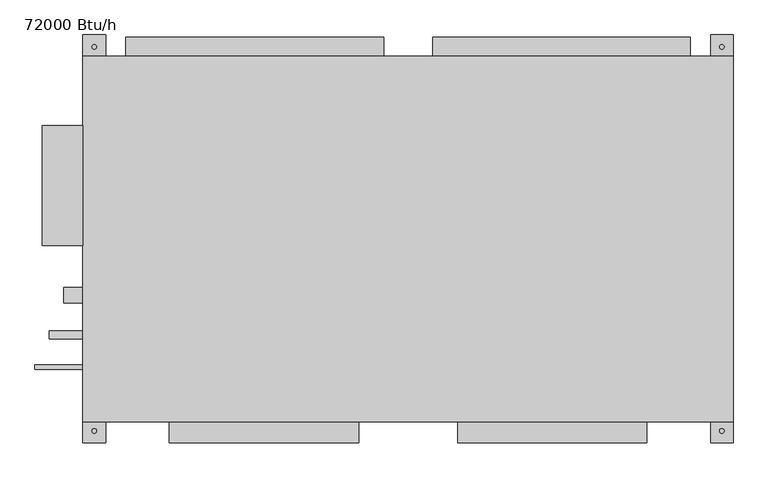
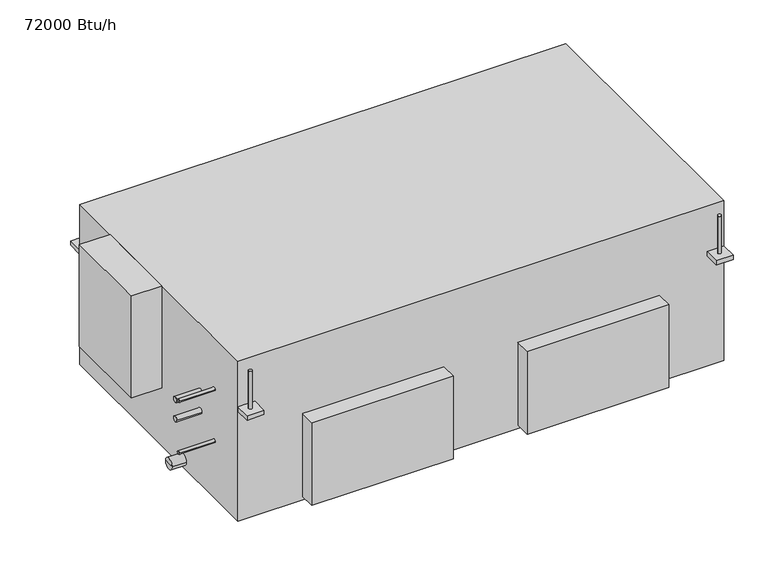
"""IFC4 building model written with IfcOpenShell, lengths in millimetres: proxy geometry, Lennox-VRF-72,96_Btu-High_Static_Ducted-VHIA-2P_Series : 72000 Btu/h."""

from ifc_helpers import new_model, si_unit, point, frame, frame_2d, origin, origin_with_axes, place, context, project, spatial, polyline, circle_curve, trimmed, segment, composite_curve, outline, extrude, source, transform, mapped, element, save
from ifc_brep_helpers import plane_surface, cylinder_surface, advanced_brep


def proxy_72000_btu_h_4e514649(model_context):
    return source(origin(), model_context, "Body", "SolidModel", [
        advanced_brep(
        [(-674.0, -101.125, 23.0), (-674.0, -132.875, 23.0), (-674.0, -117.0, 23.0), (-634.0, -101.125, 23.0), (-634.0, -132.875, 23.0), (-634.0, -117.0, 23.0)],
        [
            (0, 1, circle_curve(frame((-674.0, -117.0, 23.0), z_axis=(-1.0, 0.0, 0.0), x_axis=(0.0, -1.0, 0.0)), 15.875)),
            (1, 2),
            (2, 0),
            (1, 0, circle_curve(frame((-674.0, -117.0, 23.0), z_axis=(-1.0, 0.0, 0.0), x_axis=(0.0, -1.0, 0.0)), 15.875)),
            (3, 4, circle_curve(frame((-634.0, -117.0, 23.0), z_axis=(-1.0, 0.0, 0.0), x_axis=(0.0, -1.0, 0.0)), 15.875)),
            (4, 1),
            (0, 3),
            (4, 3, circle_curve(frame((-634.0, -117.0, 23.0), z_axis=(-1.0, 0.0, 0.0), x_axis=(0.0, -1.0, 0.0)), 15.875)),
            (5, 4),
            (3, 5),
        ],
        [
            plane_surface(frame((-674.0, -117.0, 23.0), z_axis=(-1.0, 0.0, 0.0), x_axis=(0.0, -1.0, 0.0))),
            cylinder_surface(frame((-634.0, -117.0, 23.0), z_axis=(1.0, 0.0, 0.0), x_axis=(0.0, -1.0, 0.0)), 15.875),
            plane_surface(frame((-634.0, -117.0, 23.0), z_axis=(1.0, 0.0, 0.0), x_axis=(0.0, -1.0, 0.0))),
        ],
        [
            (0, [[1, 2, 3]]),
            (0, [[4, -3, -2]]),
            (1, [[5, 6, -1, 7]]),
            (1, [[8, -7, -4, -6]]),
            (2, [[9, -5, 10]]),
            (2, [[-10, -8, -9]]),
        ],
    ),
        extrude(outline(composite_curve([segment(trimmed(circle_curve(frame_2d((-200.0, 216.0)), 7.9375), [point((-207.9375, 216.0))], [point((-192.0625, 216.0))], False, "CARTESIAN"), True, "CONTINUOUS"), segment(trimmed(circle_curve(frame_2d((-200.0, 216.0)), 7.9375), [point((-192.0625, 216.0))], [point((-207.9375, 216.0))], False, "CARTESIAN"), True, "CONTINUOUS")], self_intersect=False)), frame((-704.0, 0.0, 0.0), z_axis=(1.0, 0.0, 0.0), x_axis=(0.0, 1.0, 0.0)), (0.0, 0.0, 1.0), 70.0),
        extrude(outline(composite_curve([segment(trimmed(circle_curve(frame_2d((-267.0, 168.0)), 4.7625), [point((-271.7625, 168.0))], [point((-262.2375, 168.0))], False, "CARTESIAN"), True, "CONTINUOUS"), segment(trimmed(circle_curve(frame_2d((-267.0, 168.0)), 4.7625), [point((-262.2375, 168.0))], [point((-271.7625, 168.0))], False, "CARTESIAN"), True, "CONTINUOUS")], self_intersect=False)), frame((-734.0, 0.0, 0.0), z_axis=(1.0, 0.0, 0.0), x_axis=(0.0, 1.0, 0.0)), (0.0, 0.0, 1.0), 100.0),
        extrude(outline(polyline([(719.0, 425.0), (719.0, 381.0), (672.0, 381.0), (672.0, 425.0), (719.0, 425.0)]), holes=[composite_curve([segment(trimmed(circle_curve(frame_2d((695.5, 400.0)), 4.7625), [point((690.7375, 400.0))], [point((700.2625, 400.0))], True, "CARTESIAN"), True, "CONTINUOUS"), segment(trimmed(circle_curve(frame_2d((695.5, 400.0)), 4.7625), [point((700.2625, 400.0))], [point((690.7375, 400.0))], True, "CARTESIAN"), True, "CONTINUOUS")], self_intersect=False)]), frame((0.0, 0.0, 324.0), z_axis=(0.0, 0.0, 1.0), x_axis=(1.0, 0.0, 0.0)), (0.0, 0.0, 1.0), 13.0),
        extrude(outline(polyline([(-587.0, 425.0), (-587.0, 381.0), (-634.0, 381.0), (-634.0, 425.0), (-587.0, 425.0)]), holes=[composite_curve([segment(trimmed(circle_curve(frame_2d((-610.5, 400.0)), 4.7625), [point((-615.2625, 400.0))], [point((-605.7375, 400.0))], True, "CARTESIAN"), True, "CONTINUOUS"), segment(trimmed(circle_curve(frame_2d((-610.5, 400.0)), 4.7625), [point((-605.7375, 400.0))], [point((-615.2625, 400.0))], True, "CARTESIAN"), True, "CONTINUOUS")], self_intersect=False)]), frame((0.0, 0.0, 324.0), z_axis=(0.0, 0.0, 1.0), x_axis=(1.0, 0.0, 0.0)), (0.0, 0.0, 1.0), 13.0),
        extrude(outline(polyline([(-587.0, -381.0), (-587.0, -425.0), (-634.0, -425.0), (-634.0, -381.0), (-587.0, -381.0)]), holes=[composite_curve([segment(trimmed(circle_curve(frame_2d((-610.5, -400.0)), 4.7625), [point((-615.2625, -400.0))], [point((-605.7375, -400.0))], True, "CARTESIAN"), True, "CONTINUOUS"), segment(trimmed(circle_curve(frame_2d((-610.5, -400.0)), 4.7625), [point((-605.7375, -400.0))], [point((-615.2625, -400.0))], True, "CARTESIAN"), True, "CONTINUOUS")], self_intersect=False)]), frame((0.0, 0.0, 324.0), z_axis=(0.0, 0.0, 1.0), x_axis=(1.0, 0.0, 0.0)), (0.0, 0.0, 1.0), 13.0),
        extrude(outline(polyline([(719.0, -381.0), (719.0, -425.0), (672.0, -425.0), (672.0, -381.0), (719.0, -381.0)]), holes=[composite_curve([segment(trimmed(circle_curve(frame_2d((695.5, -400.0)), 4.7625), [point((690.7375, -400.0))], [point((700.2625, -400.0))], True, "CARTESIAN"), True, "CONTINUOUS"), segment(trimmed(circle_curve(frame_2d((695.5, -400.0)), 4.7625), [point((700.2625, -400.0))], [point((690.7375, -400.0))], True, "CARTESIAN"), True, "CONTINUOUS")], self_intersect=False)]), frame((0.0, 0.0, 324.0), z_axis=(0.0, 0.0, 1.0), x_axis=(1.0, 0.0, 0.0)), (0.0, 0.0, 1.0), 13.0),
        extrude(outline(composite_curve([segment(trimmed(circle_curve(frame_2d((695.5, 400.0)), 4.7625), [point((690.7375, 400.0))], [point((700.2625, 400.0))], False, "CARTESIAN"), True, "CONTINUOUS"), segment(trimmed(circle_curve(frame_2d((695.5, 400.0)), 4.7625), [point((700.2625, 400.0))], [point((690.7375, 400.0))], False, "CARTESIAN"), True, "CONTINUOUS")], self_intersect=False)), frame((0.0, 0.0, 319.0), z_axis=(0.0, 0.0, 1.0), x_axis=(1.0, 0.0, 0.0)), (0.0, 0.0, 1.0), 128.0),
        extrude(outline(composite_curve([segment(trimmed(circle_curve(frame_2d((695.5, -400.0)), 4.7625), [point((690.7375, -400.0))], [point((700.2625, -400.0))], False, "CARTESIAN"), True, "CONTINUOUS"), segment(trimmed(circle_curve(frame_2d((695.5, -400.0)), 4.7625), [point((700.2625, -400.0))], [point((690.7375, -400.0))], False, "CARTESIAN"), True, "CONTINUOUS")], self_intersect=False)), frame((0.0, 0.0, 319.0), z_axis=(0.0, 0.0, 1.0), x_axis=(1.0, 0.0, 0.0)), (0.0, 0.0, 1.0), 128.0),
        extrude(outline(composite_curve([segment(trimmed(circle_curve(frame_2d((-610.5, 400.0)), 4.7625), [point((-615.2625, 400.0))], [point((-605.7375, 400.0))], False, "CARTESIAN"), True, "CONTINUOUS"), segment(trimmed(circle_curve(frame_2d((-610.5, 400.0)), 4.7625), [point((-605.7375, 400.0))], [point((-615.2625, 400.0))], False, "CARTESIAN"), True, "CONTINUOUS")], self_intersect=False)), frame((0.0, 0.0, 319.0), z_axis=(0.0, 0.0, 1.0), x_axis=(1.0, 0.0, 0.0)), (0.0, 0.0, 1.0), 128.0),
        extrude(outline(composite_curve([segment(trimmed(circle_curve(frame_2d((-610.5, -400.0)), 4.7625), [point((-615.2625, -400.0))], [point((-605.7375, -400.0))], False, "CARTESIAN"), True, "CONTINUOUS"), segment(trimmed(circle_curve(frame_2d((-610.5, -400.0)), 4.7625), [point((-605.7375, -400.0))], [point((-615.2625, -400.0))], False, "CARTESIAN"), True, "CONTINUOUS")], self_intersect=False)), frame((0.0, 0.0, 319.0), z_axis=(0.0, 0.0, 1.0), x_axis=(1.0, 0.0, 0.0)), (0.0, 0.0, 1.0), 128.0),
        extrude(outline(polyline([(-634.0, 236.0), (-634.0, -14.0), (-719.0, -14.0), (-719.0, 236.0), (-634.0, 236.0)])), frame((0.0, 0.0, 170.0), z_axis=(0.0, 0.0, 1.0), x_axis=(1.0, 0.0, 0.0)), (0.0, 0.0, 1.0), 300.0),
        extrude(outline(composite_curve([segment(trimmed(circle_curve(frame_2d((-200.0, 273.0)), 7.9375), [point((-207.9375, 273.0))], [point((-192.0625, 273.0))], False, "CARTESIAN"), True, "CONTINUOUS"), segment(trimmed(circle_curve(frame_2d((-200.0, 273.0)), 7.9375), [point((-192.0625, 273.0))], [point((-207.9375, 273.0))], False, "CARTESIAN"), True, "CONTINUOUS")], self_intersect=False)), frame((-704.0, 0.0, 0.0), z_axis=(1.0, 0.0, 0.0), x_axis=(0.0, 1.0, 0.0)), (0.0, 0.0, 1.0), 70.0),
        extrude(outline(composite_curve([segment(trimmed(circle_curve(frame_2d((-267.0, 321.0)), 4.7625), [point((-271.7625, 321.0))], [point((-262.2375, 321.0))], False, "CARTESIAN"), True, "CONTINUOUS"), segment(trimmed(circle_curve(frame_2d((-267.0, 321.0)), 4.7625), [point((-262.2375, 321.0))], [point((-271.7625, 321.0))], False, "CARTESIAN"), True, "CONTINUOUS")], self_intersect=False)), frame((-734.0, 0.0, 0.0), z_axis=(1.0, 0.0, 0.0), x_axis=(0.0, 1.0, 0.0)), (0.0, 0.0, 1.0), 100.0),
        extrude(outline(polyline([(-60.5, -381.0), (-60.5, -425.0), (-454.5, -425.0), (-454.5, -381.0), (-60.5, -381.0)])), frame((0.0, 0.0, 10.0), z_axis=(0.0, 0.0, 1.0), x_axis=(1.0, 0.0, 0.0)), (0.0, 0.0, 1.0), 244.0),
        extrude(outline(polyline([(539.5, -381.0), (539.5, -425.0), (145.5, -425.0), (145.5, -381.0), (539.5, -381.0)])), frame((0.0, 0.0, 10.0), z_axis=(0.0, 0.0, 1.0), x_axis=(1.0, 0.0, 0.0)), (0.0, 0.0, 1.0), 244.0),
        extrude(outline(polyline([(-8.5, 420.5), (-8.5, 381.0), (-545.0, 381.0), (-545.0, 420.5), (-8.5, 420.5)])), frame((0.0, 0.0, 84.1875), z_axis=(0.0, 0.0, 1.0), x_axis=(1.0, 0.0, 0.0)), (0.0, 0.0, 1.0), 301.625),
        extrude(outline(polyline([(630.0, 420.5), (630.0, 381.0), (93.5, 381.0), (93.5, 420.5), (630.0, 420.5)])), frame((0.0, 0.0, 84.1875), z_axis=(0.0, 0.0, 1.0), x_axis=(1.0, 0.0, 0.0)), (0.0, 0.0, 1.0), 301.625),
        extrude(outline(polyline([(719.0, 381.0), (719.0, -381.0), (-634.0, -381.0), (-634.0, 381.0), (719.0, 381.0)])), origin_with_axes(), (0.0, 0.0, 1.0), 470.0),
    ])


if __name__ == "__main__":
    model = new_model("IFC4")
    model_context = context("Model", 3, world=origin())
    ifc_project = project(units=[si_unit("LENGTHUNIT", "METRE", prefix="MILLI")], contexts=[model_context])
    site = spatial("IfcSite", under=ifc_project)
    building = spatial("IfcBuilding", under=site)
    placement = place(None, origin())
    proxy_72000_btu_h_shape = proxy_72000_btu_h_4e514649(model_context)
    element("IfcBuildingElementProxy", 1, Name="Lennox-VRF-72,96_Btu-High_Static_Ducted-VHIA-2P_Series : 72000 Btu/h", ObjectType="Lennox-VRF-72,96_Btu-High_Static_Ducted-VHIA-2P_Series : 72000 Btu/h", at=placement, inside=building, context=model_context, shape_type="MappedRepresentation", body=[
        mapped(proxy_72000_btu_h_shape, transform((0.0, 0.0, 0.0), x_axis=(1.0, 0.0, 0.0), y_axis=(0.0, 1.0, 0.0), z_axis=(0.0, 0.0, 1.0))),
    ])
    save(model, "model.ifc")
